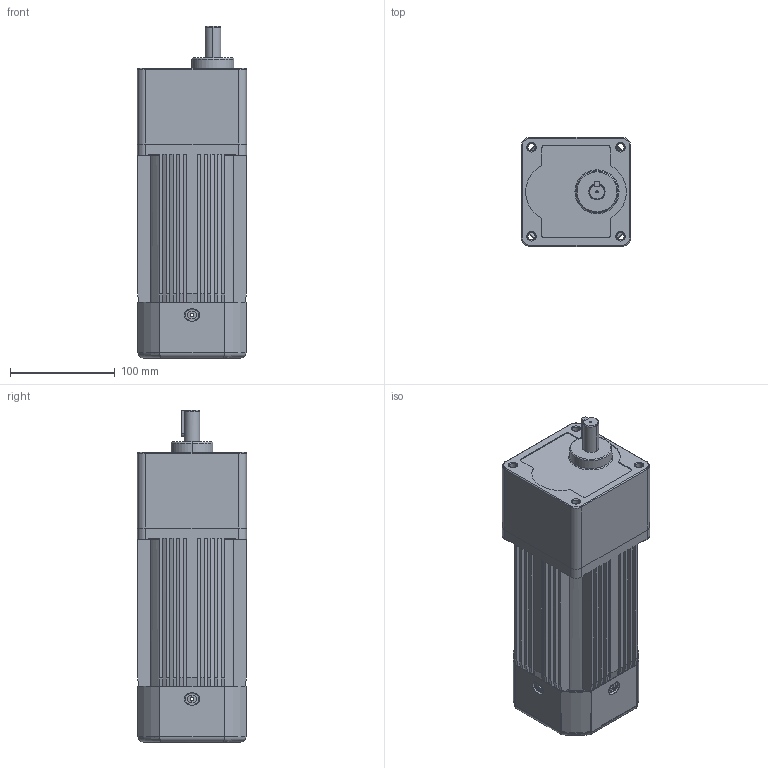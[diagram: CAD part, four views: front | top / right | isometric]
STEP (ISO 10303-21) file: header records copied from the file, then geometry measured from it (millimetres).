
FILE_DESCRIPTION (( 'STEP AP203' ), '1' );
FILE_NAME ('370W ³£¹æ 15Öá.STEP', '2017-12-29T00:54:28', ( 'XYDIY' ), ( 'XIAOYIN.Com' ), 'SwSTEP 2.0', 'SolidWorks 2014', '' );
FILE_SCHEMA (( 'CONFIG_CONTROL_DESIGN' ));
Length unit declared in the file: millimetre
Products named in the file (1): 370W 都寞 15粣
Bounding box: 104 x 104 x 316.52 mm (x, y, z)
Surface area: 257225.8 mm2 (no closed solid volume)
Topology: 0 solids, 9 shells, 475 faces, 1526 edges, 1012 vertices
Faces by surface type: plane 239, cylinder 188, torus 23, cone 19, bspline 6
Entity records: 17754 total; most frequent: CARTESIAN_POINT 4164, DIRECTION 2922, ORIENTED_EDGE 2603, EDGE_CURVE 1520, VERTEX_POINT 1012, AXIS2_PLACEMENT_3D 980, LINE 962, VECTOR 962
